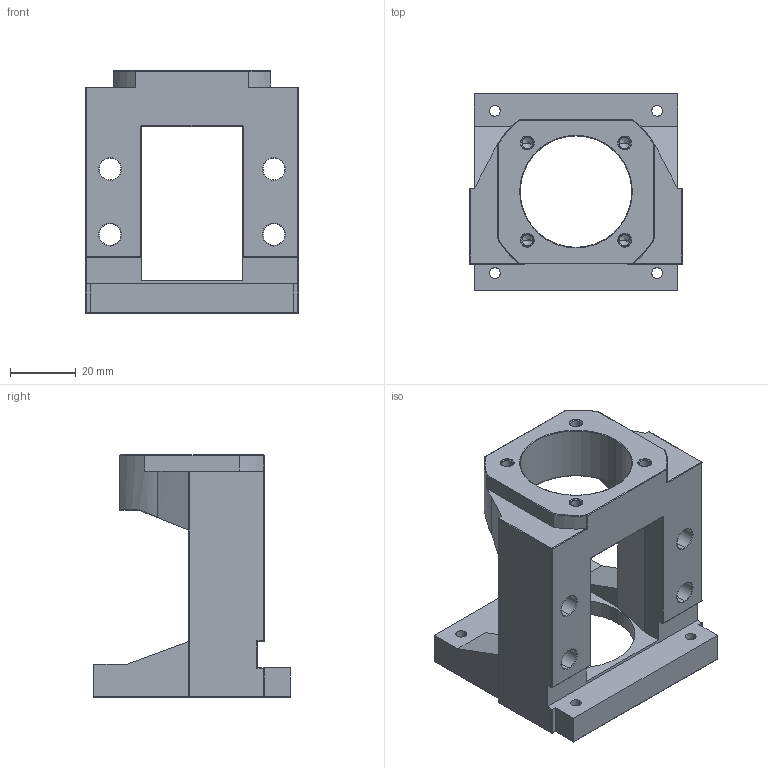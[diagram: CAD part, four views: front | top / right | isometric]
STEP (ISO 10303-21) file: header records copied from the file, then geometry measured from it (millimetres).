
FILE_DESCRIPTION (( 'STEP AP203' ), '1' );
FILE_NAME ('MBA10-DP.STEP', '2017-12-28T05:58:26', ( '' ), ( '' ), 'SwSTEP 2.0', 'SolidWorks 2017', '' );
FILE_SCHEMA (( 'CONFIG_CONTROL_DESIGN' ));
Length unit declared in the file: millimetre
Products named in the file (1): MBA10-DP
Bounding box: 65 x 60 x 74 mm (x, y, z)
Volume: 79586.4 mm3; surface area: 26098.3 mm2
Topology: 1 solids, 1 shells, 211 faces, 510 edges, 290 vertices
Faces by surface type: cylinder 92, plane 43, torus 38, cone 24, sphere 10, bspline 4
Entity records: 6190 total; most frequent: CARTESIAN_POINT 1259, DIRECTION 1078, ORIENTED_EDGE 984, EDGE_CURVE 492, AXIS2_PLACEMENT_3D 428, VERTEX_POINT 290, EDGE_LOOP 240, LINE 222
